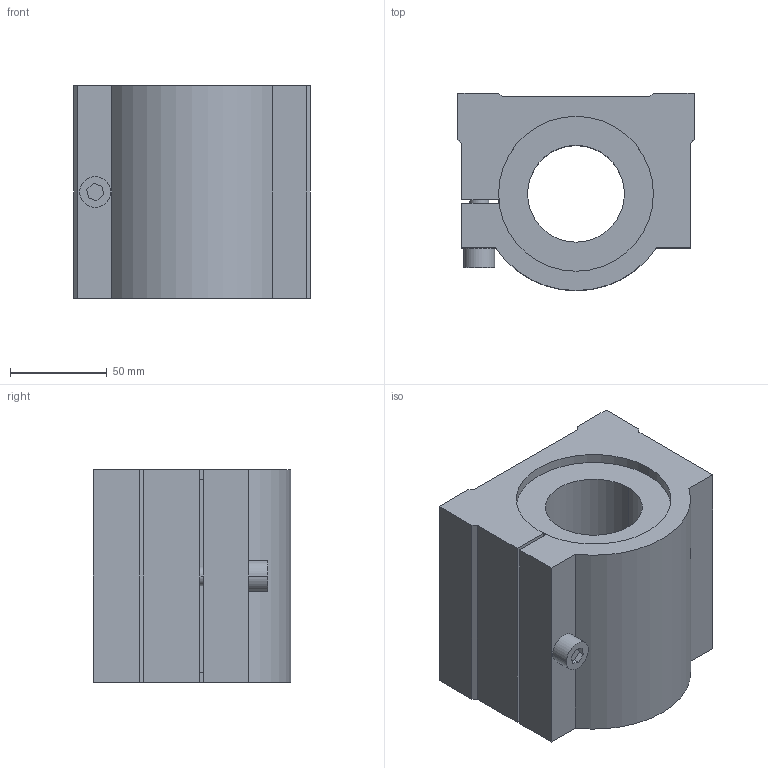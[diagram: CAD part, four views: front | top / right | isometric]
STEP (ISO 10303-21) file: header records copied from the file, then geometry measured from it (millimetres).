
FILE_DESCRIPTION((''),'2;1');
FILE_NAME('C:\Documents and Settings\ｿﾀﾀ蠑ｷ1\ｹﾙﾅﾁ ﾈｭｸ饅\ｺﾎﾇｰﾆﾄﾀﾏ\ﾁｦﾇｰ\SCJ__UU\SCJ50UU.stp','2005-06-22T17:51:56',('ｿﾀﾀ蠑ｷ1'),(''),'Autodesk Inventor 9','Autodesk Inventor 9','');
FILE_SCHEMA(('AUTOMOTIVE_DESIGN { 1 0 10303 214 1 1 1 1 }'));
Length unit declared in the file: millimetre
Products named in the file (1): SCJ__UU
Bounding box: 122 x 102 x 110 mm (x, y, z)
Volume: 923007.2 mm3; surface area: 87519.2 mm2
Topology: 1 solids, 1 shells, 56 faces, 142 edges, 88 vertices
Faces by surface type: plane 29, bspline 16, cylinder 11
Entity records: 1863 total; most frequent: CARTESIAN_POINT 551, ORIENTED_EDGE 268, DIRECTION 254, EDGE_CURVE 134, VECTOR 96, LINE 96, VERTEX_POINT 88, AXIS2_PLACEMENT_3D 79
